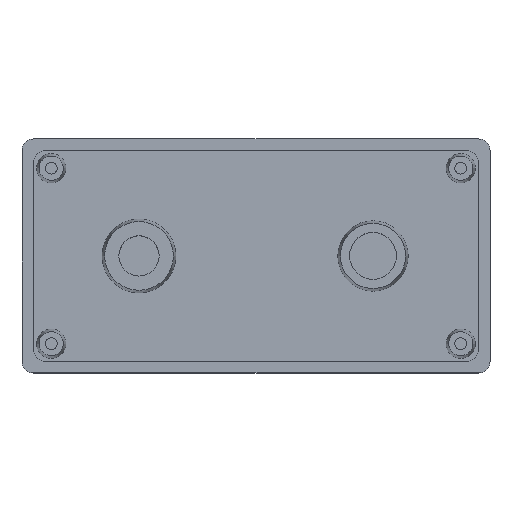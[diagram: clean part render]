
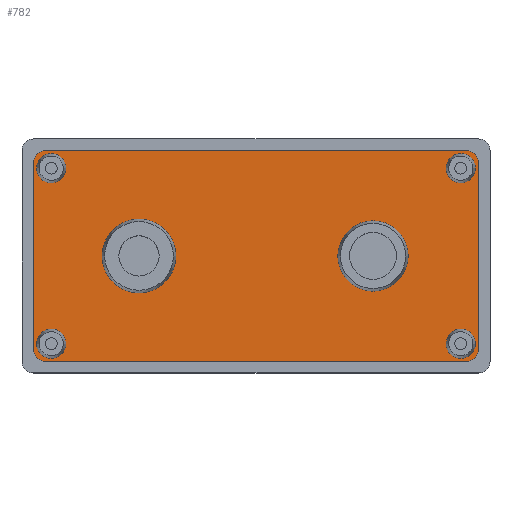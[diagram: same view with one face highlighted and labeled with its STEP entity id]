
A CAD part, top view. The second image highlights one B-rep face of the part: STEP entity #782.
In plain terms, the highlighted planar face has unit normal (0, 0, 1).
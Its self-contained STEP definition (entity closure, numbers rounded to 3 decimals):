
#19=FACE_BOUND('',#155,.T.);
#20=FACE_BOUND('',#156,.T.);
#21=FACE_BOUND('',#157,.T.);
#22=FACE_BOUND('',#158,.T.);
#23=FACE_BOUND('',#159,.T.);
#24=FACE_BOUND('',#160,.T.);
#32=PLANE('',#889);
#97=FACE_OUTER_BOUND('',#154,.T.);
#154=EDGE_LOOP('',(#614,#615,#616,#617,#618,#619,#620,#621));
#155=EDGE_LOOP('',(#622));
#156=EDGE_LOOP('',(#623));
#157=EDGE_LOOP('',(#624));
#158=EDGE_LOOP('',(#625));
#159=EDGE_LOOP('',(#626));
#160=EDGE_LOOP('',(#627));
#224=LINE('',#1330,#278);
#225=LINE('',#1334,#279);
#226=LINE('',#1338,#280);
#227=LINE('',#1342,#281);
#278=VECTOR('',#1070,1000.);
#279=VECTOR('',#1073,1000.);
#280=VECTOR('',#1076,1000.);
#281=VECTOR('',#1079,1000.);
#326=CIRCLE('',#860,6.307);
#331=CIRCLE('',#868,6.);
#334=CIRCLE('',#873,2.5);
#337=CIRCLE('',#878,2.5);
#340=CIRCLE('',#883,2.5);
#343=CIRCLE('',#888,2.5);
#344=CIRCLE('',#890,2.);
#345=CIRCLE('',#891,2.);
#346=CIRCLE('',#892,2.);
#347=CIRCLE('',#893,2.);
#380=VERTEX_POINT('',#1268);
#385=VERTEX_POINT('',#1284);
#388=VERTEX_POINT('',#1294);
#391=VERTEX_POINT('',#1304);
#394=VERTEX_POINT('',#1314);
#397=VERTEX_POINT('',#1324);
#398=VERTEX_POINT('',#1328);
#399=VERTEX_POINT('',#1329);
#400=VERTEX_POINT('',#1331);
#401=VERTEX_POINT('',#1333);
#402=VERTEX_POINT('',#1335);
#403=VERTEX_POINT('',#1337);
#404=VERTEX_POINT('',#1339);
#405=VERTEX_POINT('',#1341);
#452=EDGE_CURVE('',#380,#380,#326,.T.);
#460=EDGE_CURVE('',#385,#385,#331,.T.);
#465=EDGE_CURVE('',#388,#388,#334,.T.);
#470=EDGE_CURVE('',#391,#391,#337,.T.);
#475=EDGE_CURVE('',#394,#394,#340,.T.);
#480=EDGE_CURVE('',#397,#397,#343,.T.);
#482=EDGE_CURVE('',#398,#399,#224,.T.);
#483=EDGE_CURVE('',#399,#400,#344,.T.);
#484=EDGE_CURVE('',#400,#401,#225,.T.);
#485=EDGE_CURVE('',#401,#402,#345,.T.);
#486=EDGE_CURVE('',#402,#403,#226,.T.);
#487=EDGE_CURVE('',#403,#404,#346,.T.);
#488=EDGE_CURVE('',#404,#405,#227,.T.);
#489=EDGE_CURVE('',#405,#398,#347,.T.);
#614=ORIENTED_EDGE('',*,*,#482,.T.);
#615=ORIENTED_EDGE('',*,*,#483,.T.);
#616=ORIENTED_EDGE('',*,*,#484,.T.);
#617=ORIENTED_EDGE('',*,*,#485,.T.);
#618=ORIENTED_EDGE('',*,*,#486,.T.);
#619=ORIENTED_EDGE('',*,*,#487,.T.);
#620=ORIENTED_EDGE('',*,*,#488,.T.);
#621=ORIENTED_EDGE('',*,*,#489,.T.);
#622=ORIENTED_EDGE('',*,*,#480,.F.);
#623=ORIENTED_EDGE('',*,*,#475,.F.);
#624=ORIENTED_EDGE('',*,*,#470,.F.);
#625=ORIENTED_EDGE('',*,*,#465,.F.);
#626=ORIENTED_EDGE('',*,*,#460,.F.);
#627=ORIENTED_EDGE('',*,*,#452,.F.);
#782=ADVANCED_FACE('',(#97,#19,#20,#21,#22,#23,#24),#32,.T.);
#860=AXIS2_PLACEMENT_3D('',#1269,#998,#999);
#868=AXIS2_PLACEMENT_3D('',#1285,#1017,#1018);
#873=AXIS2_PLACEMENT_3D('',#1295,#1029,#1030);
#878=AXIS2_PLACEMENT_3D('',#1305,#1041,#1042);
#883=AXIS2_PLACEMENT_3D('',#1315,#1053,#1054);
#888=AXIS2_PLACEMENT_3D('',#1325,#1065,#1066);
#889=AXIS2_PLACEMENT_3D('',#1327,#1068,#1069);
#890=AXIS2_PLACEMENT_3D('',#1332,#1071,#1072);
#891=AXIS2_PLACEMENT_3D('',#1336,#1074,#1075);
#892=AXIS2_PLACEMENT_3D('',#1340,#1077,#1078);
#893=AXIS2_PLACEMENT_3D('',#1343,#1080,#1081);
#998=DIRECTION('center_axis',(0.,0.,1.));
#999=DIRECTION('ref_axis',(1.,0.,0.));
#1017=DIRECTION('center_axis',(0.,0.,1.));
#1018=DIRECTION('ref_axis',(1.,0.,0.));
#1029=DIRECTION('center_axis',(0.,0.,1.));
#1030=DIRECTION('ref_axis',(1.,0.,0.));
#1041=DIRECTION('center_axis',(0.,0.,1.));
#1042=DIRECTION('ref_axis',(1.,0.,0.));
#1053=DIRECTION('center_axis',(0.,0.,1.));
#1054=DIRECTION('ref_axis',(1.,0.,0.));
#1065=DIRECTION('center_axis',(0.,0.,1.));
#1066=DIRECTION('ref_axis',(1.,0.,0.));
#1068=DIRECTION('center_axis',(0.,0.,1.));
#1069=DIRECTION('ref_axis',(1.,0.,0.));
#1070=DIRECTION('',(1.,0.,0.));
#1071=DIRECTION('center_axis',(0.,0.,1.));
#1072=DIRECTION('ref_axis',(1.,0.,0.));
#1073=DIRECTION('',(0.,1.,0.));
#1074=DIRECTION('center_axis',(0.,0.,1.));
#1075=DIRECTION('ref_axis',(1.,0.,0.));
#1076=DIRECTION('',(-1.,0.,0.));
#1077=DIRECTION('center_axis',(0.,0.,1.));
#1078=DIRECTION('ref_axis',(1.,0.,0.));
#1079=DIRECTION('',(0.,-1.,0.));
#1080=DIRECTION('center_axis',(0.,0.,1.));
#1081=DIRECTION('ref_axis',(1.,0.,0.));
#1268=CARTESIAN_POINT('',(-19.066,-0.096,3.));
#1269=CARTESIAN_POINT('Origin',(-25.372,-0.096,3.));
#1284=CARTESIAN_POINT('',(20.628,-0.096,3.));
#1285=CARTESIAN_POINT('Origin',(14.628,-0.096,3.));
#1294=CARTESIAN_POINT('',(-37.872,-15.096,3.));
#1295=CARTESIAN_POINT('Origin',(-40.372,-15.096,3.));
#1304=CARTESIAN_POINT('',(32.128,-15.096,3.));
#1305=CARTESIAN_POINT('Origin',(29.628,-15.096,3.));
#1314=CARTESIAN_POINT('',(32.128,14.904,3.));
#1315=CARTESIAN_POINT('Origin',(29.628,14.904,3.));
#1324=CARTESIAN_POINT('',(-37.872,14.904,3.));
#1325=CARTESIAN_POINT('Origin',(-40.372,14.904,3.));
#1327=CARTESIAN_POINT('Origin',(-43.372,-18.096,3.));
#1328=CARTESIAN_POINT('',(-41.372,-18.096,3.));
#1329=CARTESIAN_POINT('',(30.628,-18.096,3.));
#1330=CARTESIAN_POINT('',(-43.372,-18.096,3.));
#1331=CARTESIAN_POINT('',(32.628,-16.096,3.));
#1332=CARTESIAN_POINT('Origin',(30.628,-16.096,3.));
#1333=CARTESIAN_POINT('',(32.628,15.904,3.));
#1334=CARTESIAN_POINT('',(32.628,17.904,3.));
#1335=CARTESIAN_POINT('',(30.628,17.904,3.));
#1336=CARTESIAN_POINT('Origin',(30.628,15.904,3.));
#1337=CARTESIAN_POINT('',(-41.372,17.904,3.));
#1338=CARTESIAN_POINT('',(-43.372,17.904,3.));
#1339=CARTESIAN_POINT('',(-43.372,15.904,3.));
#1340=CARTESIAN_POINT('Origin',(-41.372,15.904,3.));
#1341=CARTESIAN_POINT('',(-43.372,-16.096,3.));
#1342=CARTESIAN_POINT('',(-43.372,17.904,3.));
#1343=CARTESIAN_POINT('Origin',(-41.372,-16.096,3.));
